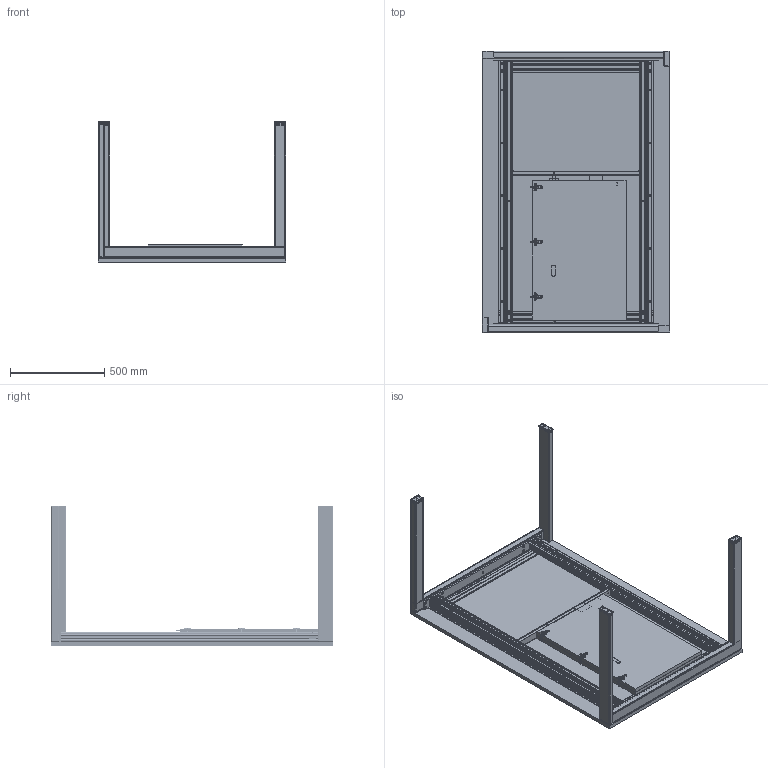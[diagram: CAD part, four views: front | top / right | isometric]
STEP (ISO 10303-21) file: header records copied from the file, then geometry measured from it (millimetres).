
FILE_DESCRIPTION (( 'STEP AP203' ), '1' );
FILE_NAME ('T allungami fenix L150 fenix.STEP', '2026-10-06T13:37:23', ( '' ), ( '' ), 'SwSTEP 2.0', 'SolidWorks 2023', '' );
FILE_SCHEMA (( 'CONFIG_CONTROL_DESIGN' ));
Length unit declared in the file: millimetre
Products named in the file (36): 0009132_Coulisse Atim - cache B; 000fedf_010-Allonge L75 Fenix noir + stratifié lisse - Droite; 000960e_Atim - dôme de réglage ; 000915d_010 - Coulisse Atim - Allungami L150 - oméga ; 0009612_Atim - frein (3); 0008e34_Coulisse Atim - Allungami L150 - axe allonge; 000930b_Coulisse Atim - vis brin+noix jonction; 000913a_020 - Coulisse Atim - Allungami 2 brins - plat mobile; 000952e; 00092f7_Coulisse Atim - vis liaison entretoise; 0009110_050 - Coulisse Atim - Allungami L150 - brin mobile gauche ; 0009613_Atim - frein; 0009611_Atim - frein (2); 000952d; 000912b_020 - Coulisse Allungami L150 fermée; 0009530_010 - ; 000fee1_010-Allonge L75 Fenix noir + stratifié lisse - Gauche; 000a0df_Charnière grès pliée; 000960c_Atim - dôme de réglage (2); 000fedb_010-Plateau L149 Fenix noir + stratifié lisse; 0009159_010 - Coulisse Atim - 2 brins - entretoise; 0009110_020 - Coulisse Atim - Allungami L150 - brin fixe droit ; 000952f; 0009110_ 060 - Coulisse Atim - Allungami L150 - brin mobile droit ; 0009110_010 - Coulisse Atim - Allungami L150 - brin fixe gauche ; 00092d3_010 - Coulisse Atim - Allungami L150 - câle oméga ; 0009610_Atim - frein (1); 0009262_pied perle Allungami; 0009309_Coulisse Atim - noix de jonction; 000960d_Atim - dôme de réglage (3); T allungami fenix L150 fenix; 000930a_Coulisse Atim - vis plat + noix jonction; 0009124_Coulisse Atim - cache A; 000913a_010 - Coulisse Atim - Allungami 2 brins - plat fixe; 000960b_Atim - dôme de réglage (1); 00092d2_Coulisse Atim - plôt réglage axe allonges
Assembly tree (65 placements, depth 4):
  T allungami fenix L150 fenix
    000fedb_010-Plateau L149 Fenix noir + stratifié lisse
    000fedf_010-Allonge L75 Fenix noir + stratifié lisse - Droite
    000fee1_010-Allonge L75 Fenix noir + stratifié lisse - Gauche
    000912b_020 - Coulisse Allungami L150 fermée
      0009110_020 - Coulisse Atim - Allungami L150 - brin fixe droit 
      0009110_050 - Coulisse Atim - Allungami L150 - brin mobile gauche 
      0009124_Coulisse Atim - cache A  x3
      0009132_Coulisse Atim - cache B  x3
      0009110_ 060 - Coulisse Atim - Allungami L150 - brin mobile droit 
      000913a_020 - Coulisse Atim - Allungami 2 brins - plat mobile
      000913a_010 - Coulisse Atim - Allungami 2 brins - plat fixe
      0009110_010 - Coulisse Atim - Allungami L150 - brin fixe gauche 
      0009159_010 - Coulisse Atim - 2 brins - entretoise
      0008e34_Coulisse Atim - Allungami L150 - axe allonge
      00092d2_Coulisse Atim - plôt réglage axe allonges
      00092f7_Coulisse Atim - vis liaison entretoise  x2
      0009309_Coulisse Atim - noix de jonction  x4
      000930b_Coulisse Atim - vis brin+noix jonction  x8
      000930a_Coulisse Atim - vis plat + noix jonction  x8
      000915d_010 - Coulisse Atim - Allungami L150 - oméga 
      00092d3_010 - Coulisse Atim - Allungami L150 - câle oméga 
      0009530_010 - 
        000952d
        000952e
        000952f
      000960e_Atim - dôme de réglage   x4
        000960d_Atim - dôme de réglage (3)
        000960c_Atim - dôme de réglage (2)
        000960b_Atim - dôme de réglage (1)
      0009613_Atim - frein  x2
        0009611_Atim - frein (2)
        0009610_Atim - frein (1)
        0009612_Atim - frein (3)
    000a0df_Charnière grès pliée  x3
    0009262_pied perle Allungami  x3
Bounding box: 994 x 1494 x 743.5 mm (x, y, z)
Volume: 53522038 mm3; surface area: 10454940.4 mm2
Topology: 93 solids, 93 shells, 7047 faces, 17945 edges, 11124 vertices
Faces by surface type: cylinder 3273, plane 2185, cone 674, torus 426, bspline 349, sphere 140
Entity records: 119293 total; most frequent: CARTESIAN_POINT 25567, DIRECTION 19478, ORIENTED_EDGE 18530, EDGE_CURVE 9265, AXIS2_PLACEMENT_3D 7517, VERTEX_POINT 5921, VECTOR 4444, LINE 4444
